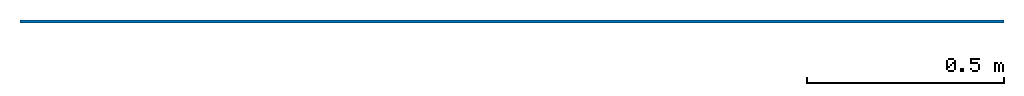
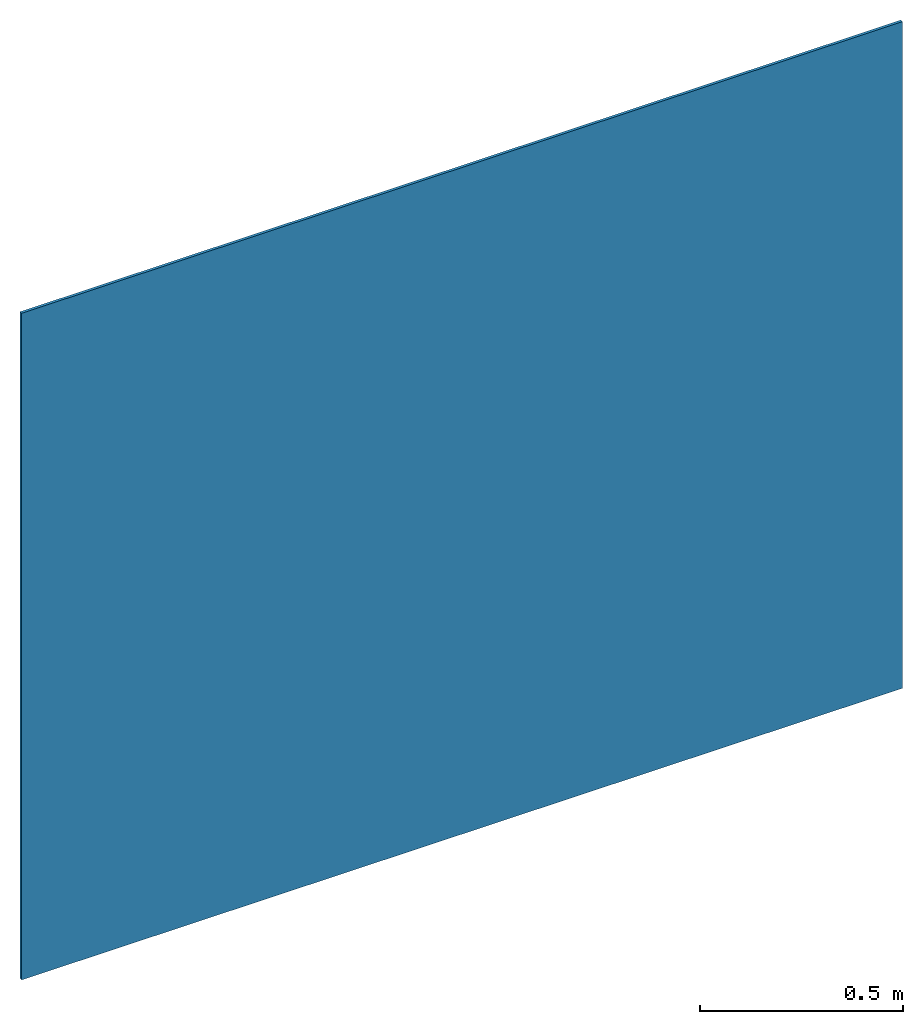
# Not in any storey: 1 wall.
"""IFC2X3 building model written with IfcOpenShell, lengths in millimetres."""

from ifc_helpers import new_model, si_unit, frame, frame_2d, origin, origin_with_axes, origin_2d, place, context, project, spatial, rectangle, extrude, material, layer, layer_set, layer_usage, type_object, element, save


model = new_model("IFC2X3")

# Units and contexts
model_context = context("Model", 3, precision=1e-05, world=origin())
plan_context = context("Plan", 2, precision=1e-05, world=origin_2d())
ifc_project = project(units=[si_unit("LENGTHUNIT", "METRE", prefix="MILLI"), si_unit("AREAUNIT", "SQUARE_METRE"), si_unit("VOLUMEUNIT", "CUBIC_METRE"), si_unit("SOLIDANGLEUNIT", "STERADIAN"), si_unit("PLANEANGLEUNIT", "RADIAN"), si_unit("MASSUNIT", "GRAM"), si_unit("TIMEUNIT", "SECOND"), si_unit("THERMODYNAMICTEMPERATUREUNIT", "DEGREE_CELSIUS"), si_unit("LUMINOUSINTENSITYUNIT", "LUMEN")], contexts=[model_context, plan_context])

# Site, building
site_placement = place(None, frame((0.0, 0.0, 0.0), z_axis=(0.0, 1.0, 0.0), x_axis=(0.0, 0.0, 1.0)))
site = spatial("IfcSite", under=ifc_project, at=site_placement, Name="Default site", CompositionType="ELEMENT")
building_placement = place(site_placement, frame((0.0, 0.0, 0.0), z_axis=(0.0, 1.0, 0.0), x_axis=(0.0, 0.0, 1.0)))
building = spatial("IfcBuilding", under=site, at=building_placement, Name="Default building", CompositionType="ELEMENT")

# Wall
ifc_material = material(Name="NBS_DeltaMembranes_HighDensityPolyethyleneStuddedSheets_Delta-SystemMS500")
ifc_layer = layer(ifc_material, 8.0, ventilated=False)
ifc_layer_set = layer_set([ifc_layer], Name="NBS_DeltaMembranes_HighDensityPolyethyleneStuddedSheets_Delta-SystemMS500")
ifc_layer_usage = layer_usage(ifc_layer_set, "AXIS2", "POSITIVE", 0.0)
wall_type = type_object("IfcWallType", Name="NBS_DeltaMembranes_HighDensityPolyethyleneStuddedSheets_Delta-SystemMS500", PredefinedType="STANDARD", material=ifc_layer_set)
wall_placement = place(None, origin())
element("IfcWallStandardCase", 1, at=wall_placement, inside=building, type_object=wall_type, material=ifc_layer_usage, Name="NBS_DeltaMembranes_HighDensityPolyethyleneStuddedSheets_Delta-SystemMS500", context=model_context, shape_type="SweptSolid", body=[
    extrude(rectangle(XDim=2500.0, YDim=8.0, at=frame_2d((1250.0, 4.0))), origin_with_axes(), (0.0, 0.0, 1.0), 2000.0),
])

save(model, "model.ifc")
